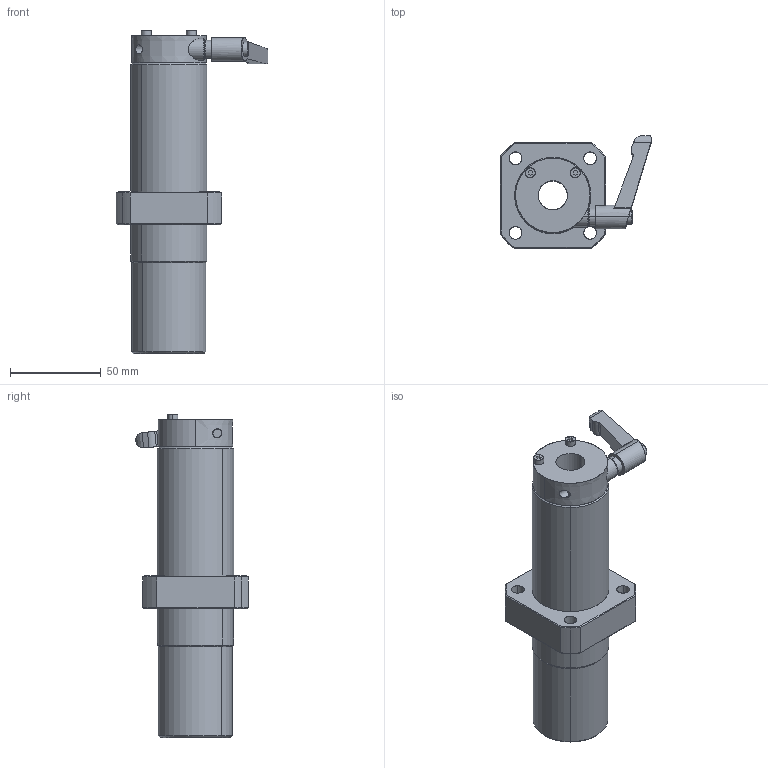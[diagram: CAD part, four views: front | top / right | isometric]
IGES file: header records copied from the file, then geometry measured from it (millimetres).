
Start section: SolidWorks IGES file using analytic representation for surfaces
Global section: file name: C:\Users\yamad\Desktop\IGES\LFWLC16MF-CS.IGS; native system: SolidWorks 2019; preprocessor: SolidWorks 2019; author: yamad; date: 230627.104727; units: millimetre
Bounding box: 83.5 x 61.84 x 178 mm (x, y, z)
Surface area: 50733.6 mm2 (no closed solid volume)
Topology: 0 solids, 0 shells, 237 faces, 4822 edges, 4822 vertices
Faces by surface type: bspline 121, revolution 116
